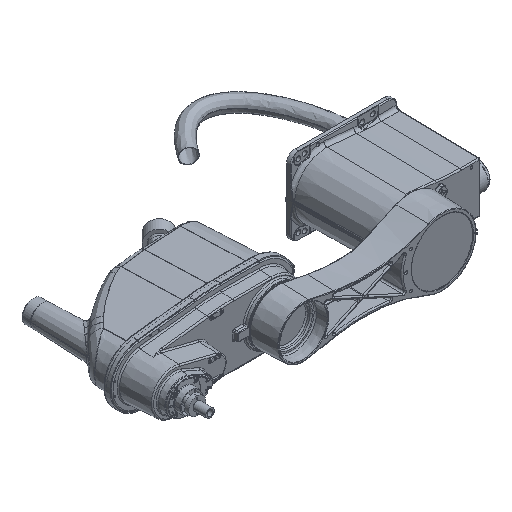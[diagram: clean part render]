
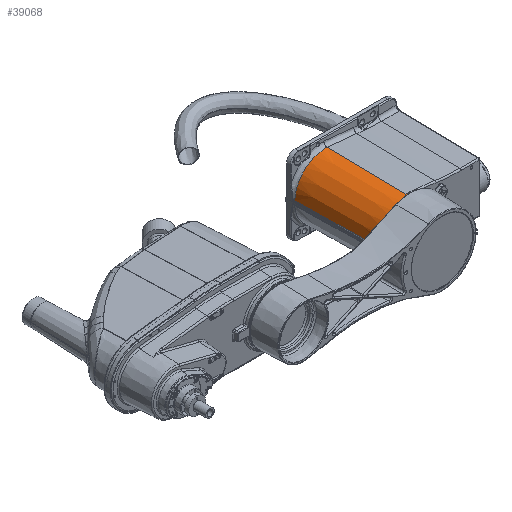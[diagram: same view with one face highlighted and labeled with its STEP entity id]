
A CAD part, isometric view. The second image highlights one B-rep face of the part: STEP entity #39068.
In plain terms, the highlighted conical face has half-angle 1 degrees and reference radius 72.15 mm.
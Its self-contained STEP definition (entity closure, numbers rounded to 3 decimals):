
#23831=CARTESIAN_POINT('',(0.,-214.017,0.));
#23832=DIRECTION('',(0.,1.,0.));
#23833=DIRECTION('',(-0.998,0.,0.07));
#23834=AXIS2_PLACEMENT_3D('',#23831,#23832,#23833);
#24790=CARTESIAN_POINT('',(55.144,-212.017,
43.883));
#24791=CARTESIAN_POINT('',(55.475,-212.401,
43.456));
#24792=CARTESIAN_POINT('',(56.117,-213.06,
42.611));
#24793=CARTESIAN_POINT('',(57.041,-213.807,
41.343));
#24794=CARTESIAN_POINT('',(57.598,-213.977,
40.553));
#24795=CARTESIAN_POINT('',(57.891,-213.999,
40.129));
#24797=CARTESIAN_POINT('',(-70.265,-214.017,
4.946));
#24798=CARTESIAN_POINT('',(-70.645,-192.282,
4.946));
#24799=CARTESIAN_POINT('',(-71.406,-148.88,
4.946));
#24800=CARTESIAN_POINT('',(-72.539,-83.987,
4.946));
#24801=CARTESIAN_POINT('',(-73.294,-40.864,
4.947));
#24802=CARTESIAN_POINT('',(-73.671,-19.337,
4.947));
#24804=CARTESIAN_POINT('',(-73.671,-19.337,
4.947));
#24805=CARTESIAN_POINT('',(-73.598,-19.316,
6.029));
#24806=CARTESIAN_POINT('',(-73.4,-19.273,
8.269));
#24807=CARTESIAN_POINT('',(-72.949,-19.208,
11.598));
#24808=CARTESIAN_POINT('',(-72.346,-19.144,
14.903));
#24809=CARTESIAN_POINT('',(-71.616,-19.083,
18.089));
#24810=CARTESIAN_POINT('',(-70.757,-19.022,
21.203));
#24811=CARTESIAN_POINT('',(-69.768,-18.963,
24.263));
#24812=CARTESIAN_POINT('',(-68.648,-18.905,
27.274));
#24813=CARTESIAN_POINT('',(-67.388,-18.847,
30.257));
#24814=CARTESIAN_POINT('',(-65.949,-18.789,
33.285));
#24815=CARTESIAN_POINT('',(-64.253,-18.727,
36.466));
#24816=CARTESIAN_POINT('',(-62.196,-18.661,
39.89));
#24817=CARTESIAN_POINT('',(-59.675,-18.589,
43.592));
#24818=CARTESIAN_POINT('',(-56.615,-18.513,
47.517));
#24819=CARTESIAN_POINT('',(-53.016,-18.436,
51.515));
#24820=CARTESIAN_POINT('',(-48.961,-18.361,
55.39));
#24821=CARTESIAN_POINT('',(-44.561,-18.291,
58.989));
#24822=CARTESIAN_POINT('',(-39.893,-18.228,
62.242));
#24823=CARTESIAN_POINT('',(-34.989,-18.173,
65.126));
#24824=CARTESIAN_POINT('',(-29.877,-18.124,
67.625));
#24825=CARTESIAN_POINT('',(-24.588,-18.084,
69.723));
#24826=CARTESIAN_POINT('',(-19.153,-18.051,
71.408));
#24827=CARTESIAN_POINT('',(-13.605,-18.027,
72.67));
#24828=CARTESIAN_POINT('',(-7.977,-18.011,
73.502));
#24829=CARTESIAN_POINT('',(-2.3,-18.003,
73.898));
#24830=CARTESIAN_POINT('',(1.496,-18.004,
73.87));
#24831=CARTESIAN_POINT('',(3.391,-18.005,
73.782));
#24833=DIRECTION('',(-0.001,-1.,-0.017));
#24834=VECTOR('',#24833,184.075);
#24835=CARTESIAN_POINT('',(3.391,-18.005,
73.782));
#24836=LINE('',#24835,#24834);
#24837=CARTESIAN_POINT('',(3.243,-202.052,
70.573));
#24838=CARTESIAN_POINT('',(6.455,-202.82,
70.412));
#24839=CARTESIAN_POINT('',(12.545,-204.135,
69.669));
#24840=CARTESIAN_POINT('',(20.521,-205.611,
67.686));
#24841=CARTESIAN_POINT('',(25.154,-205.949,
65.986));
#24842=CARTESIAN_POINT('',(27.294,-205.983,
65.088));
#25072=CARTESIAN_POINT('',(55.144,-212.017,
43.883));
#25073=CARTESIAN_POINT('',(55.153,-210.006,
43.928));
#25074=CARTESIAN_POINT('',(55.162,-207.994,
43.973));
#25075=CARTESIAN_POINT('',(55.171,-205.983,
44.018));
#25086=CARTESIAN_POINT('',(0.,-205.983,0.));
#25087=DIRECTION('',(0.,1.,0.));
#25088=DIRECTION('',(0.387,0.,0.922));
#25089=AXIS2_PLACEMENT_3D('',#25086,#25087,#25088);
#34099=CARTESIAN_POINT('',(3.243,-202.052,
70.573));
#34101=VERTEX_POINT('',#34099);
#34103=CARTESIAN_POINT('',(3.391,-18.005,
73.782));
#34104=VERTEX_POINT('',#34103);
#34106=VERTEX_POINT('',#24790);
#34107=VERTEX_POINT('',#24795);
#34114=VERTEX_POINT('',#24797);
#34115=VERTEX_POINT('',#24802);
#34116=VERTEX_POINT('',#24842);
#34117=CARTESIAN_POINT('',(55.171,-205.983,
44.018));
#34118=VERTEX_POINT('',#34117);
#39047=CARTESIAN_POINT('',(0.,-116.011,0.));
#39048=DIRECTION('',(0.,1.,0.));
#39049=DIRECTION('',(-1.,0.,0.));
#39050=AXIS2_PLACEMENT_3D('',#39047,#39048,#39049);
#39051=CONICAL_SURFACE('',#39050,72.15,1.);
#39053=ORIENTED_EDGE('',*,*,#39052,.T.);
#39054=ORIENTED_EDGE('',*,*,#37450,.F.);
#39056=ORIENTED_EDGE('',*,*,#39055,.T.);
#39058=ORIENTED_EDGE('',*,*,#39057,.T.);
#39059=ORIENTED_EDGE('',*,*,#39002,.T.);
#39061=ORIENTED_EDGE('',*,*,#39060,.T.);
#39063=ORIENTED_EDGE('',*,*,#39062,.T.);
#39065=ORIENTED_EDGE('',*,*,#39064,.F.);
#39066=EDGE_LOOP('',(#39053,#39054,#39056,#39058,#39059,#39061,#39063,#39065));
#39067=FACE_OUTER_BOUND('',#39066,.F.);
#23835=CIRCLE('',#23834,70.439);
#24796=B_SPLINE_CURVE_WITH_KNOTS('',3,(#24790,#24791,#24792,#24793,#24794,
#24795),.UNSPECIFIED.,.F.,.F.,(4,1,1,4),(0.,0.333,
0.667,1.),.UNSPECIFIED.);
#24803=B_SPLINE_CURVE_WITH_KNOTS('',3,(#24797,#24798,#24799,#24800,#24801,
#24802),.UNSPECIFIED.,.F.,.F.,(4,1,1,4),(0.,0.333,
0.667,1.),.UNSPECIFIED.);
#24832=B_SPLINE_CURVE_WITH_KNOTS('',3,(#24804,#24805,#24806,#24807,#24808,
#24809,#24810,#24811,#24812,#24813,#24814,#24815,#24816,#24817,#24818,#24819,
#24820,#24821,#24822,#24823,#24824,#24825,#24826,#24827,#24828,#24829,#24830,
#24831),.UNSPECIFIED.,.F.,.F.,(4,1,1,1,1,1,1,1,1,1,1,1,1,1,1,1,1,1,1,1,1,1,1,1,
1,4),(0.,0.028,0.059,0.088,
0.116,0.145,0.173,0.201,
0.229,0.258,0.289,0.323,
0.362,0.406,0.454,0.503,
0.553,0.603,0.652,0.702,
0.752,0.801,0.851,0.901,
0.95,1.),.UNSPECIFIED.);
#24843=B_SPLINE_CURVE_WITH_KNOTS('',3,(#24837,#24838,#24839,#24840,#24841,
#24842),.UNSPECIFIED.,.F.,.F.,(4,1,1,4),(0.,0.333,
0.667,1.),.UNSPECIFIED.);
#25076=B_SPLINE_CURVE_WITH_KNOTS('',3,(#25072,#25073,#25074,#25075),
.UNSPECIFIED.,.F.,.F.,(4,4),(0.,1.),.UNSPECIFIED.);
#25090=CIRCLE('',#25089,70.579);
#37450=EDGE_CURVE('',#34114,#34107,#23835,.T.);
#39002=EDGE_CURVE('',#34104,#34101,#24836,.T.);
#39052=EDGE_CURVE('',#34106,#34107,#24796,.T.);
#39055=EDGE_CURVE('',#34114,#34115,#24803,.T.);
#39057=EDGE_CURVE('',#34115,#34104,#24832,.T.);
#39060=EDGE_CURVE('',#34101,#34116,#24843,.T.);
#39062=EDGE_CURVE('',#34116,#34118,#25090,.T.);
#39064=EDGE_CURVE('',#34106,#34118,#25076,.T.);
#39068=ADVANCED_FACE('',(#39067),#39051,.T.);
